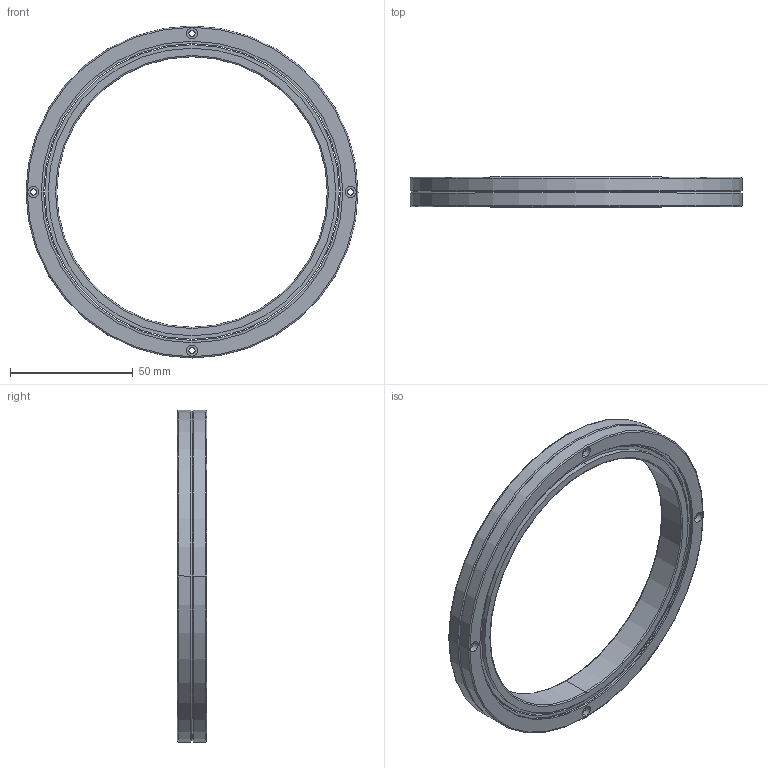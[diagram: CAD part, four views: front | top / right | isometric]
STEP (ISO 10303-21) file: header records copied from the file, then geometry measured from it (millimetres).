
FILE_DESCRIPTION((''),'2;1');
FILE_NAME('RB11012','2015-01-09T',('Administrator'),(''),'PRO/ENGINEER BY PARAMETRIC TECHNOLOGY CORPORATION, 2010180','PRO/ENGINEER BY PARAMETRIC TECHNOLOGY CORPORATION, 2010180','');
FILE_SCHEMA(('AUTOMOTIVE_DESIGN_CC2 { 1 2 10303 214 -1 1 5 2 }'));
Length unit declared in the file: millimetre
Products named in the file (1): RB11012
Bounding box: 135 x 12 x 135 mm (x, y, z)
Volume: 46270 mm3; surface area: 29899.3 mm2
Topology: 2 solids, 2 shells, 88 faces, 184 edges, 114 vertices
Faces by surface type: cylinder 50, plane 18, cone 12, torus 8
Entity records: 2497 total; most frequent: DIRECTION 482, CARTESIAN_POINT 386, ORIENTED_EDGE 368, AXIS2_PLACEMENT_3D 210, EDGE_CURVE 184, CIRCLE 122, VERTEX_POINT 114, EDGE_LOOP 114
